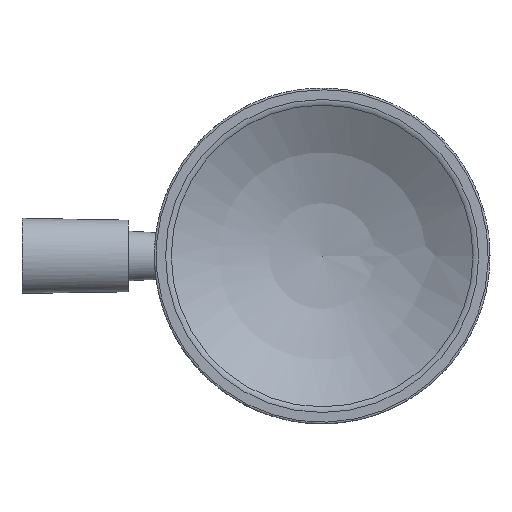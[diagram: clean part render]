
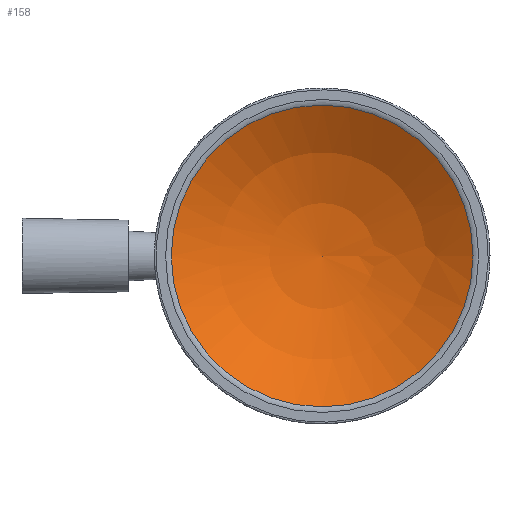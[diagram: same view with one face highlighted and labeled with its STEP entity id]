
A CAD part, top view. The second image highlights one B-rep face of the part: STEP entity #158.
In plain terms, the highlighted spherical face has radius 80 mm.
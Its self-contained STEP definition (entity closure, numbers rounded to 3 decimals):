
#158=ADVANCED_FACE('',(#755),#757,.F.);
#755=FACE_OUTER_BOUND('',#756,.T.);
#756=EDGE_LOOP('',(#2132));
#757=SPHERICAL_SURFACE('',#758,80.);
#758=AXIS2_PLACEMENT_3D('',#759,#760,#761);
#759=CARTESIAN_POINT('',(19.727,0.,162.23));
#760=DIRECTION('',(0.,0.,-1.));
#761=DIRECTION('',(1.,0.,0.));
#2132=ORIENTED_EDGE('',*,*,#2182,.F.);
#2182=EDGE_CURVE('',#2226,#2226,#2227,.T.);
#2226=VERTEX_POINT('',#3368);
#2227=CIRCLE('',#3369,44.13);
#3368=CARTESIAN_POINT('',(63.857,0.,95.502));
#3369=AXIS2_PLACEMENT_3D('',#3370,#3371,#3372);
#3370=CARTESIAN_POINT('',(19.727,0.,95.502));
#3371=DIRECTION('',(0.,0.,-1.));
#3372=DIRECTION('',(1.,0.,0.));
